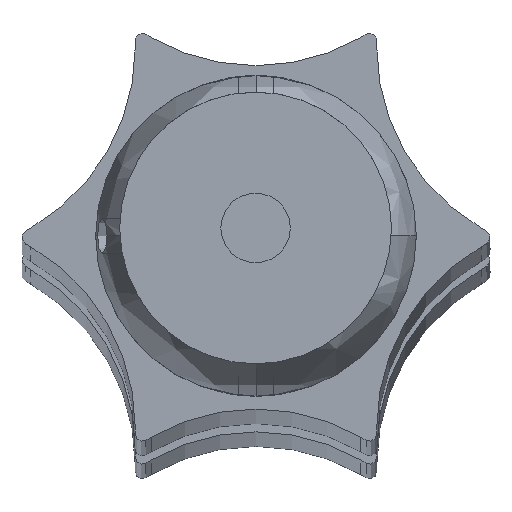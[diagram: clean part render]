
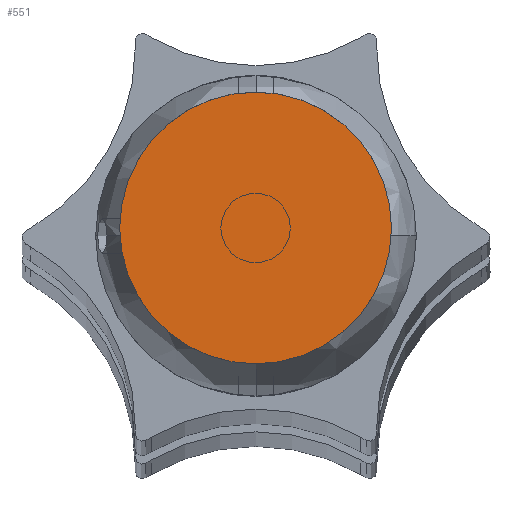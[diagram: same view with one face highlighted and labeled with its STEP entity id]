
A CAD part, top view. The second image highlights one B-rep face of the part: STEP entity #551.
In plain terms, the highlighted planar face has unit normal (0, 0, 1).
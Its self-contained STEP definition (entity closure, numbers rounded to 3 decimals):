
#551=ADVANCED_FACE('',(#694),#2931,.T.);
#694=FACE_OUTER_BOUND('',#848,.T.);
#848=EDGE_LOOP('',(#1621,#1622));
#1621=ORIENTED_EDGE('',*,*,#2112,.F.);
#1622=ORIENTED_EDGE('',*,*,#2108,.F.);
#2108=EDGE_CURVE('',#2870,#2872,#2314,.T.);
#2112=EDGE_CURVE('',#2872,#2870,#2316,.T.);
#2314=TRIMMED_CURVE($,#2494,(#7105),(#7106),.T.,.CARTESIAN.);
#2316=TRIMMED_CURVE($,#2496,(#7115),(#7116),.T.,.CARTESIAN.);
#2494=CIRCLE('',#3596,9.75);
#2496=CIRCLE('',#3598,9.75);
#2870=VERTEX_POINT('',#7100);
#2872=VERTEX_POINT('',#7102);
#2931=PLANE('',#3593);
#3593=AXIS2_PLACEMENT_3D('',#7097,#4103,$);
#3596=AXIS2_PLACEMENT_3D($,#7104,#4106,#4107);
#3598=AXIS2_PLACEMENT_3D($,#7114,#4110,#4111);
#4103=DIRECTION('',(0.,0.,1.));
#4106=DIRECTION('',(0.,0.,-1.));
#4107=DIRECTION('',(1.,0.,0.));
#4110=DIRECTION('',(0.,0.,-1.));
#4111=DIRECTION('',(-1.,0.,0.));
#7097=CARTESIAN_POINT('',(12.159,-12.054,910.));
#7100=CARTESIAN_POINT('',(9.721,0.133,910.));
#7102=CARTESIAN_POINT('',(-9.779,0.133,910.));
#7104=CARTESIAN_POINT('',(-0.029,0.133,910.));
#7105=CARTESIAN_POINT('',(9.721,0.133,910.));
#7106=CARTESIAN_POINT('',(-9.779,0.133,910.));
#7114=CARTESIAN_POINT('',(-0.029,0.133,910.));
#7115=CARTESIAN_POINT('',(-9.779,0.133,910.));
#7116=CARTESIAN_POINT('',(9.721,0.133,910.));
